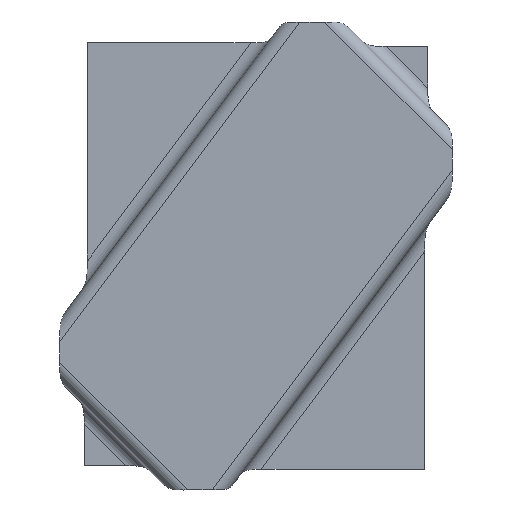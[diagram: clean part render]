
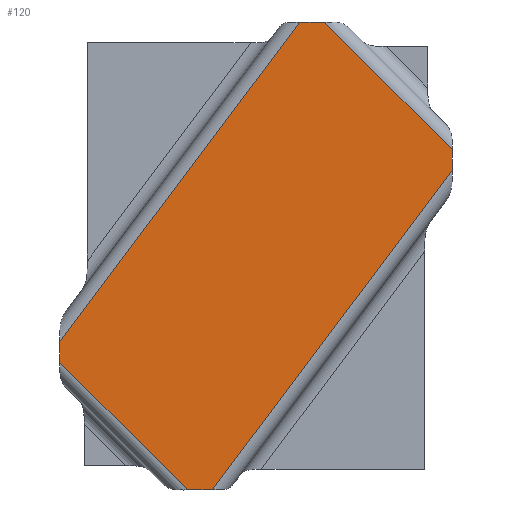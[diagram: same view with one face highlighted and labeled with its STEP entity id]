
A CAD part, top view. The second image highlights one B-rep face of the part: STEP entity #120.
In plain terms, the highlighted planar face has unit normal (0, 0, -1).
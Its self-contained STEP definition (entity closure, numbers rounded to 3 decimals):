
#53=CARTESIAN_POINT('Axis2P3D Location',(-51.619,38.742,65.04)) ;
#59=CARTESIAN_POINT('Control Point',(-51.619,78.061,65.04)) ;
#60=CARTESIAN_POINT('Control Point',(11.938,162.742,65.04)) ;
#61=CARTESIAN_POINT('Vertex',(-51.619,78.061,65.04)) ;
#63=CARTESIAN_POINT('Vertex',(11.938,162.742,65.04)) ;
#66=CARTESIAN_POINT('Line Origine',(0.381,162.742,65.04)) ;
#70=CARTESIAN_POINT('Vertex',(18.555,162.742,65.04)) ;
#74=CARTESIAN_POINT('Control Point',(18.555,162.742,65.04)) ;
#75=CARTESIAN_POINT('Control Point',(52.381,128.916,65.04)) ;
#76=CARTESIAN_POINT('Vertex',(52.381,128.916,65.04)) ;
#79=CARTESIAN_POINT('Line Origine',(52.381,100.742,65.04)) ;
#83=CARTESIAN_POINT('Vertex',(52.381,123.419,65.04)) ;
#87=CARTESIAN_POINT('Control Point',(52.381,123.419,65.04)) ;
#88=CARTESIAN_POINT('Control Point',(-11.173,38.742,65.04)) ;
#89=CARTESIAN_POINT('Vertex',(-11.173,38.742,65.04)) ;
#92=CARTESIAN_POINT('Line Origine',(0.381,38.742,65.04)) ;
#96=CARTESIAN_POINT('Vertex',(-17.793,38.742,65.04)) ;
#100=CARTESIAN_POINT('Control Point',(-51.619,72.568,65.04)) ;
#101=CARTESIAN_POINT('Control Point',(-17.793,38.742,65.04)) ;
#102=CARTESIAN_POINT('Vertex',(-51.619,72.568,65.04)) ;
#105=CARTESIAN_POINT('Line Origine',(-51.619,100.742,65.04)) ;
#54=DIRECTION('Axis2P3D Direction',(0.,0.,1.)) ;
#55=DIRECTION('Axis2P3D XDirection',(1.,0.,0.)) ;
#67=DIRECTION('Vector Direction',(1.,0.,0.)) ;
#80=DIRECTION('Vector Direction',(0.,1.,0.)) ;
#93=DIRECTION('Vector Direction',(1.,0.,0.)) ;
#106=DIRECTION('Vector Direction',(0.,1.,0.)) ;
#56=AXIS2_PLACEMENT_3D('Plane Axis2P3D',#53,#54,#55) ;
#111=ORIENTED_EDGE('',*,*,#65,.T.) ;
#112=ORIENTED_EDGE('',*,*,#72,.T.) ;
#113=ORIENTED_EDGE('',*,*,#78,.T.) ;
#114=ORIENTED_EDGE('',*,*,#85,.T.) ;
#115=ORIENTED_EDGE('',*,*,#91,.T.) ;
#116=ORIENTED_EDGE('',*,*,#98,.T.) ;
#117=ORIENTED_EDGE('',*,*,#104,.F.) ;
#118=ORIENTED_EDGE('',*,*,#109,.T.) ;
#68=VECTOR('Line Direction',#67,1.) ;
#81=VECTOR('Line Direction',#80,1.) ;
#94=VECTOR('Line Direction',#93,1.) ;
#107=VECTOR('Line Direction',#106,1.) ;
#120=ADVANCED_FACE('Offset.1',(#119),#57,.F.) ;
#58=B_SPLINE_CURVE_WITH_KNOTS('',1,(#59,#60),.UNSPECIFIED.,.F.,.U.,(2,2),(-52.939,52.939),.UNSPECIFIED.) ;
#73=B_SPLINE_CURVE_WITH_KNOTS('',1,(#74,#75),.UNSPECIFIED.,.F.,.U.,(2,2),(-23.919,23.919),.UNSPECIFIED.) ;
#86=B_SPLINE_CURVE_WITH_KNOTS('',1,(#87,#88),.UNSPECIFIED.,.F.,.U.,(2,2),(-52.937,52.937),.UNSPECIFIED.) ;
#99=B_SPLINE_CURVE_WITH_KNOTS('',1,(#100,#101),.UNSPECIFIED.,.F.,.U.,(2,2),(-23.919,23.919),.UNSPECIFIED.) ;
#65=EDGE_CURVE('',#62,#64,#58,.T.) ;
#72=EDGE_CURVE('',#64,#71,#69,.T.) ;
#78=EDGE_CURVE('',#71,#77,#73,.T.) ;
#85=EDGE_CURVE('',#77,#84,#82,.F.) ;
#91=EDGE_CURVE('',#84,#90,#86,.T.) ;
#98=EDGE_CURVE('',#90,#97,#95,.F.) ;
#104=EDGE_CURVE('',#103,#97,#99,.T.) ;
#109=EDGE_CURVE('',#103,#62,#108,.T.) ;
#110=EDGE_LOOP('',(#111,#112,#113,#114,#115,#116,#117,#118)) ;
#119=FACE_OUTER_BOUND('',#110,.T.) ;
#69=LINE('Line',#66,#68) ;
#82=LINE('Line',#79,#81) ;
#95=LINE('Line',#92,#94) ;
#108=LINE('Line',#105,#107) ;
#57=PLANE('',#56) ;
#62=VERTEX_POINT('',#61) ;
#64=VERTEX_POINT('',#63) ;
#71=VERTEX_POINT('',#70) ;
#77=VERTEX_POINT('',#76) ;
#84=VERTEX_POINT('',#83) ;
#90=VERTEX_POINT('',#89) ;
#97=VERTEX_POINT('',#96) ;
#103=VERTEX_POINT('',#102) ;
